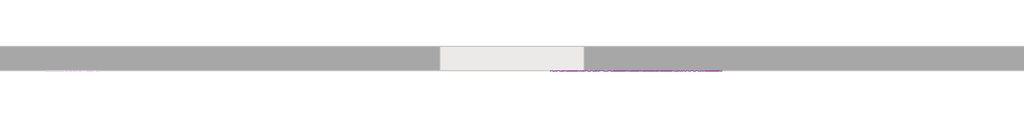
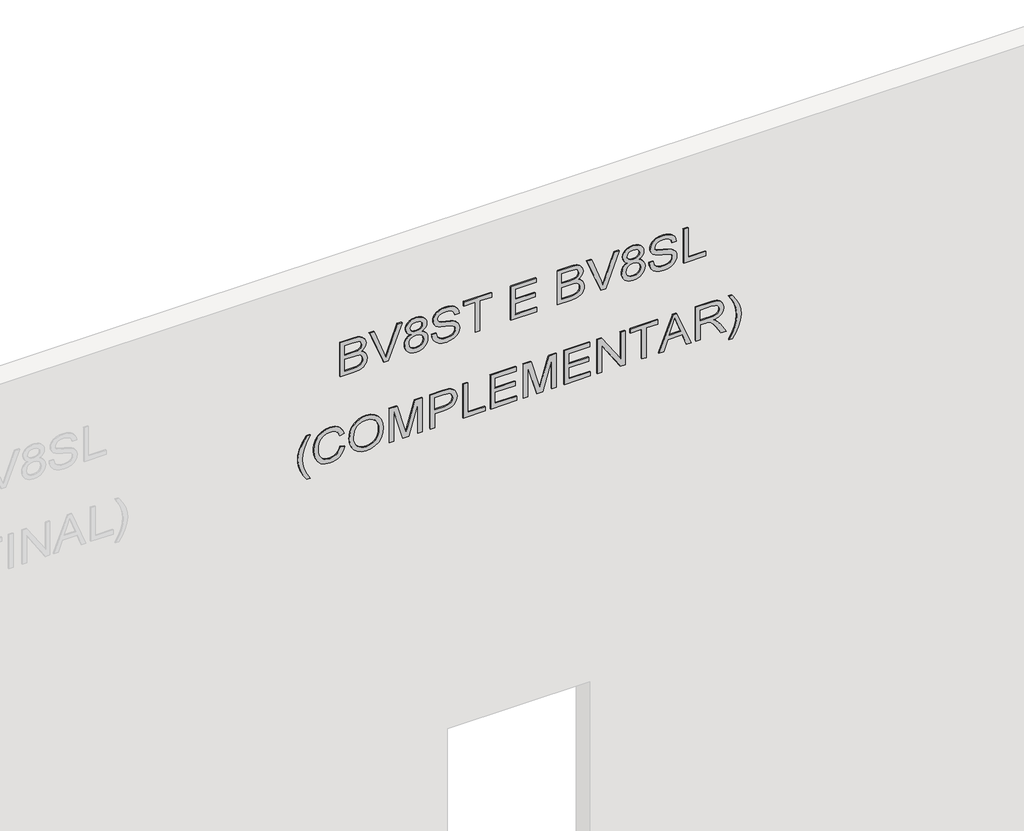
# One storey, part 5 of 5: 1 proxy.
"""IFC4 building model written with IfcOpenShell, lengths in millimetres."""

from ifc_helpers import new_model, si_unit, frame, origin, place, context, project, spatial, polyline, outline, extrude, element, save

model = new_model("IFC4")

# Units and contexts
model_context = context("Model", 3, world=origin())
ifc_project = project(units=[si_unit("LENGTHUNIT", "METRE", prefix="MILLI")], contexts=[model_context])

# Site, building, storey
site = spatial("IfcSite", under=ifc_project)
building = spatial("IfcBuilding", under=site)
storey = spatial("IfcBuildingStorey", under=building, Name="01 - Marelli - Planta Baixa - Painel Simples", Elevation=0.0)

# Proxy
placement = place(None, origin())
element("IfcBuildingElementProxy", 1, Name="300mm Arial", ObjectType="300mm Arial", at=placement, inside=storey, context=model_context, shape_type="SweptSolid", body=[
    extrude(outline(polyline([(6065.9244535, 22363.4646331), (6065.9244535, 22477.581628), (6071.1115897, 22525.884534), (6077.5311305, 22543.9199488), (6086.4154807, 22558.6628198), (6098.6843452, 22570.7017581), (6115.2574291, 22580.6253749), (6134.7459778, 22587.274842), (6155.7612368, 22589.491331), (6180.9795475, 22586.2447724), (6202.6294029, 22576.5050965), (6219.5887629, 22560.732156), (6230.7355874, 22539.3858032), (6242.4802201, 22557.2556711), (6257.407032, 22569.956797), (6274.4675596, 22577.5443632), (6292.613339, 22580.0735519), (6312.3318139, 22577.0661166), (6331.1673721, 22568.0438107), (6347.1794359, 22553.7148069), (6358.4274279, 22534.7872783), (6365.076895, 22510.0931994), (6367.293384, 22478.4645448), (6367.293384, 22363.4646331), (6065.9244535, 22363.4646331)]), holes=[polyline([(6244.862256, 22401.1357494), (6329.6222677, 22401.1357494), (6329.6222677, 22464.7057582), (6325.6859303, 22513.1190288), (6320.084927, 22525.6086225), (6311.1545915, 22534.8240665), (6299.7134615, 22540.5078433), (6286.5800742, 22542.4024356), (6273.0512139, 22540.3698876), (6262.0423452, 22534.2722435), (6253.6822268, 22524.1646857), (6248.0996175, 22510.1023964), (6244.862256, 22469.9296825), (6244.862256, 22401.1357494)]), polyline([(6103.5955698, 22401.1357494), (6207.1911397, 22401.1357494), (6207.1911397, 22474.7121485), (6205.9311438, 22501.539943), (6202.1511563, 22521.2492209), (6195.262566, 22535.1643573), (6184.6767616, 22544.6097276), (6171.1387042, 22550.0175929), (6155.3933548, 22551.8202147), (6141.8369032, 22550.2843073), (6130.0094971, 22545.6765854), (6113.2708663, 22530.0048124), (6105.0670978, 22506.3500001), (6103.5955698, 22478.3909684), (6103.5955698, 22401.1357494)])]), frame((0.0, 8778.3159498, 0.0), z_axis=(0.0, 1.0, 0.0), x_axis=(0.0, 0.0, 1.0)), (0.0, 0.0, 1.0), 10.0),
    extrude(outline(polyline([(6065.9244535, 22730.3165587), (6065.9244535, 22769.2384738), (6367.293384, 22884.0912327), (6367.293384, 22843.771366), (6150.1694304, 22763.2787855), (6101.2411251, 22747.2391305), (6150.1694304, 22730.9787463), (6367.293384, 22650.706895), (6367.293384, 22610.3870283), (6065.9244535, 22730.3165587)])), frame((0.0, 8778.3159498, 0.0), z_axis=(0.0, 1.0, 0.0), x_axis=(0.0, 0.0, 1.0)), (0.0, 0.0, 1.0), 10.0),
    extrude(outline(polyline([(6231.9128098, 22959.8749237), (6221.4281729, 22936.5512052), (6204.5423893, 22919.2607515), (6182.0280112, 22908.5553854), (6154.6575908, 22904.98693), (6135.5070337, 22906.6883843), (6118.007347, 22911.792747), (6102.1585308, 22920.3000181), (6087.960585, 22932.2101977), (6076.2596383, 22946.8978863), (6067.9018193, 22963.7376847), (6062.8871278, 22982.7295927), (6061.215564, 23003.8736103), (6062.88023, 23025.017628), (6067.8742281, 23044.009536), (6076.1975583, 23060.8493343), (6087.8502204, 23075.537023), (6101.9492979, 23087.4472026), (6117.6118739, 23095.9544737), (6134.8379483, 23101.0588364), (6153.6275212, 23102.7602906), (6179.9770691, 23099.329791), (6202.3718855, 23089.0382922), (6219.965842, 23072.1617057), (6231.9128098, 23048.975943), (6241.8180325, 23068.5012798), (6255.1997401, 23082.3428399), (6271.6348682, 23090.5925937), (6290.7003526, 23093.3425116), (6306.0962141, 23091.7974072), (6320.278065, 23087.1620941), (6333.2459053, 23079.4365722), (6344.9997351, 23068.6208415), (6354.7532065, 23055.2713236), (6361.7199718, 23039.94444), (6367.293384, 23003.3585756), (6361.8487305, 22966.9934403), (6355.0429135, 22951.8321036), (6345.5147699, 22938.6849208), (6333.9862678, 22928.0623282), (6321.1793759, 22920.474762), (6307.094094, 22915.9222223), (6291.7304222, 22914.4047091), (6272.0303413, 22917.1914152), (6255.3101047, 22925.5515336), (6241.8456236, 22939.7057933), (6231.9128098, 22959.8749237)]), holes=[polyline([(6290.6267762, 22952.0758254), (6305.525997, 22955.4695368), (6318.1443494, 22965.650671), (6326.7527881, 22981.9938287), (6329.6222677, 23003.8736103), (6326.6884088, 23025.6154363), (6317.886832, 23041.986185), (6304.781036, 23052.2500927), (6288.934519, 23055.6713953), (6273.6674162, 23052.3604573), (6260.9754874, 23042.4276434), (6252.422231, 23026.2776238), (6249.5711455, 23004.3150687), (6252.4406251, 22981.8282818), (6261.0490638, 22965.4299418), (6274.182451, 22955.4143545), (6290.6267762, 22952.0758254)]), polyline([(6155.981966, 22942.6580463), (6177.9629152, 22946.6403689), (6195.9339506, 22958.5873367), (6207.9085096, 22977.634427), (6211.9000292, 23002.9171172), (6207.8533273, 23028.8527978), (6195.7132214, 23048.5344846), (6177.3926981, 23060.9505019), (6154.8047436, 23065.0891743), (6132.5938681, 23061.0792606), (6114.6688179, 23049.0495194), (6102.8322147, 23029.809291), (6098.8866803, 23004.1679159), (6100.7628785, 22987.4292852), (6106.391473, 22971.2056892), (6115.4505671, 22957.6584347), (6127.6182641, 22948.9488285), (6155.981966, 22942.6580463)])]), frame((0.0, 8778.3159498, 0.0), z_axis=(0.0, 1.0, 0.0), x_axis=(0.0, 0.0, 1.0)), (0.0, 0.0, 1.0), 10.0),
    extrude(outline(polyline([(6169.5200234, 23135.7225174), (6139.0961824, 23140.1922837), (6111.9832793, 23151.9829016), (6089.7264186, 23170.3494102), (6073.8707046, 23194.5468484), (6064.3793492, 23224.9247042), (6061.215564, 23261.8324654), (6064.1494229, 23291.8976214), (6072.9509996, 23318.8173864), (6087.0408801, 23341.2030058), (6105.83965, 23357.6657251), (6127.6826435, 23367.791677), (6150.9051944, 23371.1669943), (6173.6219076, 23368.2331354), (6193.5059295, 23359.4315587), (6210.3733189, 23344.4495644), (6224.0401351, 23322.974453), (6232.8509088, 23297.8481127), (6242.9492696, 23256.3142354), (6253.5810593, 23216.0679452), (6263.9921197, 23194.8043658), (6275.6355849, 23185.8096511), (6290.1117414, 23182.8114128), (6307.0894955, 23187.0420557), (6321.381711, 23199.7339846), (6331.0937957, 23221.6781456), (6334.3311572, 23253.6654851), (6331.0570075, 23284.9170606), (6321.2345582, 23307.4498328), (6305.0109622, 23321.870807), (6282.5333723, 23328.7869885), (6282.5333723, 23366.4581048), (6307.4941657, 23362.2090677), (6329.6958441, 23351.5220958), (6347.9979733, 23334.6363122), (6361.2601193, 23311.7908403), (6369.316735, 23283.9789615), (6372.0022735, 23252.1939571), (6369.4362966, 23222.855368), (6361.7383659, 23196.3494702), (6349.0832252, 23174.2673535), (6331.6456187, 23158.2001073), (6311.0718181, 23148.4052492), (6289.0080954, 23145.1402965), (6269.2712264, 23147.7798498), (6251.5577083, 23155.6985098), (6236.198635, 23168.9882468), (6223.5251003, 23187.7410315), (6214.4660061, 23210.7796415), (6204.9470595, 23246.7860918), (6190.5628735, 23301.6372972), (6182.7545782, 23317.7137404), (6173.4563607, 23327.2418841), (6162.5578566, 23331.9323795), (6149.9487012, 23333.495878), (6137.0084521, 23331.4081477), (6124.6752082, 23325.1449567), (6113.9330539, 23314.6143346), (6105.7660736, 23299.7243109), (6100.6065286, 23281.3486052), (6098.8866803, 23260.3609374), (6101.1583516, 23236.5221841), (6107.9733656, 23215.1850284), (6118.4763965, 23197.7290277), (6131.8121189, 23185.5337396), (6148.615129, 23177.7162472), (6169.5200234, 23173.3936337), (6169.5200234, 23135.7225174)])), frame((0.0, 8778.3159498, 0.0), z_axis=(0.0, 1.0, 0.0), x_axis=(0.0, 0.0, 1.0)), (0.0, 0.0, 1.0), 10.0),
    extrude(outline(polyline([(6065.9244535, 23503.0159014), (6065.9244535, 23540.6870177), (6329.6222677, 23540.6870177), (6329.6222677, 23639.573698), (6367.293384, 23639.573698), (6367.293384, 23404.1292211), (6329.6222677, 23404.1292211), (6329.6222677, 23503.0159014), (6065.9244535, 23503.0159014)])), frame((0.0, 8778.3159498, 0.0), z_axis=(0.0, 1.0, 0.0), x_axis=(0.0, 0.0, 1.0)), (0.0, 0.0, 1.0), 10.0),
    extrude(outline(polyline([(6065.9244535, 23799.6759423), (6065.9244535, 24020.9937506), (6103.5955698, 24020.9937506), (6103.5955698, 23837.3470586), (6202.4822501, 23837.3470586), (6202.4822501, 24006.867082), (6240.1533665, 24006.867082), (6240.1533665, 23837.3470586), (6329.6222677, 23837.3470586), (6329.6222677, 24016.2848611), (6367.293384, 24016.2848611), (6367.293384, 23799.6759423), (6065.9244535, 23799.6759423)])), frame((0.0, 8778.3159498, 0.0), z_axis=(0.0, 1.0, 0.0), x_axis=(0.0, 0.0, 1.0)), (0.0, 0.0, 1.0), 10.0),
    extrude(outline(polyline([(6065.9244535, 24195.2226635), (6065.9244535, 24309.3396584), (6071.1115897, 24357.6425644), (6077.5311305, 24375.6779792), (6086.4154807, 24390.4208502), (6098.6843452, 24402.4597885), (6115.2574291, 24412.3834053), (6134.7459778, 24419.0328723), (6155.7612368, 24421.2493614), (6180.9795475, 24418.0028028), (6202.6294029, 24408.2631269), (6219.5887629, 24392.4901864), (6230.7355874, 24371.1438336), (6242.4802201, 24389.0137015), (6257.407032, 24401.7148274), (6274.4675596, 24409.3023936), (6292.613339, 24411.8315823), (6312.3318139, 24408.824147), (6331.1673721, 24399.801841), (6347.1794359, 24385.4728373), (6358.4274279, 24366.5453087), (6365.076895, 24341.8512298), (6367.293384, 24310.2225752), (6367.293384, 24195.2226635), (6065.9244535, 24195.2226635)]), holes=[polyline([(6244.862256, 24232.8937798), (6329.6222677, 24232.8937798), (6329.6222677, 24296.4637886), (6325.6859303, 24344.8770592), (6320.084927, 24357.3666529), (6311.1545915, 24366.5820969), (6299.7134615, 24372.2658737), (6286.5800742, 24374.160466), (6273.0512139, 24372.127918), (6262.0423452, 24366.0302739), (6253.6822268, 24355.9227161), (6248.0996175, 24341.8604268), (6244.862256, 24301.6877129), (6244.862256, 24232.8937798)]), polyline([(6103.5955698, 24232.8937798), (6207.1911397, 24232.8937798), (6207.1911397, 24306.4701789), (6205.9311438, 24333.2979734), (6202.1511563, 24353.0072513), (6195.262566, 24366.9223877), (6184.6767616, 24376.3677579), (6171.1387042, 24381.7756233), (6155.3933548, 24383.5782451), (6141.8369032, 24382.0423377), (6130.0094971, 24377.4346157), (6113.2708663, 24361.7628427), (6105.0670978, 24338.1080305), (6103.5955698, 24310.1489988), (6103.5955698, 24232.8937798)])]), frame((0.0, 8778.3159498, 0.0), z_axis=(0.0, 1.0, 0.0), x_axis=(0.0, 0.0, 1.0)), (0.0, 0.0, 1.0), 10.0),
    extrude(outline(polyline([(6065.9244535, 24562.0745891), (6065.9244535, 24600.9965042), (6367.293384, 24715.8492631), (6367.293384, 24675.5293964), (6150.1694304, 24595.0368159), (6101.2411251, 24578.9971609), (6150.1694304, 24562.7367767), (6367.293384, 24482.4649254), (6367.293384, 24442.1450587), (6065.9244535, 24562.0745891)])), frame((0.0, 8778.3159498, 0.0), z_axis=(0.0, 1.0, 0.0), x_axis=(0.0, 0.0, 1.0)), (0.0, 0.0, 1.0), 10.0),
    extrude(outline(polyline([(6231.9128098, 24791.6329541), (6221.4281729, 24768.3092356), (6204.5423893, 24751.0187818), (6182.0280112, 24740.3134158), (6154.6575908, 24736.7449604), (6135.5070337, 24738.4464147), (6118.007347, 24743.5507773), (6102.1585308, 24752.0580485), (6087.960585, 24763.9682281), (6076.2596383, 24778.6559167), (6067.9018193, 24795.4957151), (6062.8871278, 24814.4876231), (6061.215564, 24835.6316407), (6062.88023, 24856.7756584), (6067.8742281, 24875.7675664), (6076.1975583, 24892.6073647), (6087.8502204, 24907.2950534), (6101.9492979, 24919.205233), (6117.6118739, 24927.7125041), (6134.8379483, 24932.8168668), (6153.6275212, 24934.518321), (6179.9770691, 24931.0878214), (6202.3718855, 24920.7963226), (6219.965842, 24903.9197361), (6231.9128098, 24880.7339733), (6241.8180325, 24900.2593102), (6255.1997401, 24914.1008703), (6271.6348682, 24922.350624), (6290.7003526, 24925.100542), (6306.0962141, 24923.5554376), (6320.278065, 24918.9201244), (6333.2459053, 24911.1946025), (6344.9997351, 24900.3788719), (6354.7532065, 24887.029354), (6361.7199718, 24871.7024704), (6367.293384, 24835.1166059), (6361.8487305, 24798.7514707), (6355.0429135, 24783.590134), (6345.5147699, 24770.4429512), (6333.9862678, 24759.8203586), (6321.1793759, 24752.2327924), (6307.094094, 24747.6802527), (6291.7304222, 24746.1627395), (6272.0303413, 24748.9494456), (6255.3101047, 24757.309564), (6241.8456236, 24771.4638237), (6231.9128098, 24791.6329541)]), holes=[polyline([(6155.981966, 24774.4160767), (6177.9629152, 24778.3983993), (6195.9339506, 24790.3453671), (6207.9085096, 24809.3924574), (6211.9000292, 24834.6751475), (6207.8533273, 24860.6108282), (6195.7132214, 24880.2925149), (6177.3926981, 24892.7085323), (6154.8047436, 24896.8472047), (6132.5938681, 24892.837291), (6114.6688179, 24880.8075497), (6102.8322147, 24861.5673214), (6098.8866803, 24835.9259463), (6100.7628785, 24819.1873155), (6106.391473, 24802.9637196), (6115.4505671, 24789.4164651), (6127.6182641, 24780.7068588), (6155.981966, 24774.4160767)]), polyline([(6290.6267762, 24783.8338558), (6305.525997, 24787.2275672), (6318.1443494, 24797.4087014), (6326.7527881, 24813.7518591), (6329.6222677, 24835.6316407), (6326.6884088, 24857.3734666), (6317.886832, 24873.7442154), (6304.781036, 24884.0081231), (6288.934519, 24887.4294256), (6273.6674162, 24884.1184877), (6260.9754874, 24874.1856738), (6252.422231, 24858.0356542), (6249.5711455, 24836.0730991), (6252.4406251, 24813.5863122), (6261.0490638, 24797.1879722), (6274.182451, 24787.1723849), (6290.6267762, 24783.8338558)])]), frame((0.0, 8778.3159498, 0.0), z_axis=(0.0, 1.0, 0.0), x_axis=(0.0, 0.0, 1.0)), (0.0, 0.0, 1.0), 10.0),
    extrude(outline(polyline([(6169.5200234, 24967.4805478), (6139.0961824, 24971.950314), (6111.9832793, 24983.740932), (6089.7264186, 25002.1074406), (6073.8707046, 25026.3048788), (6064.3793492, 25056.6827346), (6061.215564, 25093.5904957), (6064.1494229, 25123.6556518), (6072.9509996, 25150.5754168), (6087.0408801, 25172.9610362), (6105.83965, 25189.4237555), (6127.6826435, 25199.5497074), (6150.9051944, 25202.9250247), (6173.6219076, 25199.9911658), (6193.5059295, 25191.1895891), (6210.3733189, 25176.2075948), (6224.0401351, 25154.7324833), (6232.8509088, 25129.6061431), (6242.9492696, 25088.0722658), (6253.5810593, 25047.8259755), (6263.9921197, 25026.5623962), (6275.6355849, 25017.5676814), (6290.1117414, 25014.5694432), (6307.0894955, 25018.8000861), (6321.381711, 25031.492015), (6331.0937957, 25053.436176), (6334.3311572, 25085.4235155), (6331.0570075, 25116.6750909), (6321.2345582, 25139.2078631), (6305.0109622, 25153.6288374), (6282.5333723, 25160.5450189), (6282.5333723, 25198.2161352), (6307.4941657, 25193.9670981), (6329.6958441, 25183.2801262), (6347.9979733, 25166.3943426), (6361.2601193, 25143.5488707), (6369.316735, 25115.7369919), (6372.0022735, 25083.9519875), (6369.4362966, 25054.6133984), (6361.7383659, 25028.1075006), (6349.0832252, 25006.0253838), (6331.6456187, 24989.9581377), (6311.0718181, 24980.1632796), (6289.0080954, 24976.8983269), (6269.2712264, 24979.5378802), (6251.5577083, 24987.4565401), (6236.198635, 25000.7462772), (6223.5251003, 25019.4990619), (6214.4660061, 25042.5376719), (6204.9470595, 25078.5441221), (6190.5628735, 25133.3953276), (6182.7545782, 25149.4717708), (6173.4563607, 25158.9999145), (6162.5578566, 25163.6904099), (6149.9487012, 25165.2539084), (6137.0084521, 25163.1661781), (6124.6752082, 25156.9029871), (6113.9330539, 25146.372365), (6105.7660736, 25131.4823412), (6100.6065286, 25113.1066356), (6098.8866803, 25092.1189678), (6101.1583516, 25068.2802145), (6107.9733656, 25046.9430588), (6118.4763965, 25029.4870581), (6131.8121189, 25017.2917699), (6148.615129, 25009.4742775), (6169.5200234, 25005.1516641), (6169.5200234, 24967.4805478)])), frame((0.0, 8778.3159498, 0.0), z_axis=(0.0, 1.0, 0.0), x_axis=(0.0, 0.0, 1.0)), (0.0, 0.0, 1.0), 10.0),
    extrude(outline(polyline([(6065.9244535, 25259.4316992), (6065.9244535, 25447.7872807), (6103.5955698, 25447.7872807), (6103.5955698, 25297.1028155), (6367.293384, 25297.1028155), (6367.293384, 25259.4316992), (6065.9244535, 25259.4316992)])), frame((0.0, 8778.3159498, 0.0), z_axis=(0.0, 1.0, 0.0), x_axis=(0.0, 0.0, 1.0)), (0.0, 0.0, 1.0), 10.0),
    extrude(outline(polyline([(5249.3155348, 22080.9312608), (5249.3155348, 22109.1845981), (5297.5540614, 22080.3426497), (5345.8109821, 22059.7412579), (5394.0862969, 22047.3804229), (5442.3800058, 22043.2601445), (5480.2534572, 22045.6329834), (5517.9429677, 22052.7515), (5575.7740173, 22073.9415029), (5635.4444769, 22109.1845981), (5635.4444769, 22080.9312608), (5584.934279, 22046.2399887), (5534.2033518, 22021.9229888), (5489.4137189, 22009.6725184), (5442.600735, 22005.5890282), (5389.2210575, 22011.0520759), (5337.68079, 22027.4412187), (5290.2791949, 22051.7398245), (5249.3155348, 22080.9312608)])), frame((0.0, 8778.3159498, 0.0), z_axis=(0.0, 1.0, 0.0), x_axis=(0.0, 0.0, 1.0)), (0.0, 0.0, 1.0), 10.0),
    extrude(outline(polyline([(5441.2027835, 22363.4646331), (5408.9395325, 22351.278542), (5385.7261786, 22331.4956878), (5371.7098746, 22305.2932927), (5367.0377732, 22273.8485791), (5370.4682728, 22246.8736318), (5380.7597717, 22221.8668532), (5397.9858461, 22201.0079441), (5422.2200725, 22186.4766053), (5452.3128197, 22177.95094), (5487.1144565, 22175.1090516), (5515.5333406, 22177.5094816), (5543.1060961, 22184.7107717), (5567.4966724, 22197.8349619), (5586.3690188, 22218.0040922), (5598.4539423, 22244.5835664), (5602.4822501, 22276.9387879), (5598.8494154, 22305.0081841), (5587.9509113, 22327.853656), (5569.1061561, 22345.6959328), (5541.6345681, 22358.7557436), (5550.6108888, 22396.4268599), (5588.4291579, 22379.7893967), (5603.751443, 22367.9872824), (5616.6824952, 22353.8629131), (5626.9510013, 22337.6830031), (5634.2856486, 22319.7142669), (5640.1533665, 22278.4103159), (5635.6192209, 22240.5552586), (5622.0167841, 22206.0111392), (5599.6771499, 22176.8840822), (5568.9314122, 22155.2802121), (5530.9843844, 22141.8985045), (5487.0408801, 22137.4379353), (5445.3782441, 22141.3834697), (5406.4747231, 22153.2200729), (5373.3837376, 22172.607454), (5349.1587083, 22199.2053223), (5334.3146698, 22233.9057915), (5329.3666569, 22277.6009755), (5331.0014325, 22300.0233831), (5335.9057594, 22320.6431689), (5344.0796375, 22339.460333), (5355.5230668, 22356.4748752), (5370.0796975, 22371.3511034), (5387.5931797, 22383.7533252), (5408.0635135, 22393.6815405), (5431.4906988, 22401.1357494), (5441.2027835, 22363.4646331)])), frame((0.0, 8778.3159498, 0.0), z_axis=(0.0, 1.0, 0.0), x_axis=(0.0, 0.0, 1.0)), (0.0, 0.0, 1.0), 10.0),
    extrude(outline(polyline([(5480.7868861, 22438.8068658), (5442.2420501, 22443.1110851), (5405.7757473, 22456.0237431), (5374.0827134, 22477.2873224), (5349.8576841, 22506.6443057), (5334.4894137, 22542.292071), (5329.3666569, 22582.4279967), (5334.0019701, 22620.2370687), (5347.9079095, 22655.3789963), (5370.8269578, 22685.3429848), (5402.5015976, 22707.6182396), (5440.9636602, 22721.4414056), (5484.2449769, 22726.0491276), (5526.9560765, 22721.6713318), (5564.8847102, 22708.5379446), (5596.5041677, 22687.0536361), (5620.2877387, 22657.6230765), (5635.1869595, 22622.1776462), (5640.1533665, 22582.6487259), (5637.5092146, 22552.3582421), (5629.5767591, 22524.9832231), (5616.3559999, 22500.523669), (5597.846937, 22478.9795796), (5574.6657728, 22461.4040173), (5547.4287096, 22448.8500442), (5516.1357474, 22441.3176604), (5480.7868861, 22438.8068658)]), holes=[polyline([(5480.4190041, 22476.4779821), (5510.955509, 22478.4415522), (5536.7877229, 22484.3322627), (5557.9156457, 22494.1501134), (5574.3392775, 22507.8951044), (5586.651828, 22524.3624223), (5595.446507, 22542.3472533), (5600.7233144, 22561.8495976), (5602.4822501, 22582.8694551), (5598.8310213, 22612.0333002), (5587.8773349, 22638.1621189), (5570.2833785, 22659.8211714), (5546.7113397, 22675.5757178), (5517.8877854, 22685.1774379), (5484.5392825, 22688.3780113), (5458.0011951, 22686.5087109), (5434.672878, 22680.9008097), (5414.5543314, 22671.5543078), (5397.6455552, 22658.4692051), (5384.2546506, 22642.4870316), (5374.6897187, 22624.4493176), (5368.9507596, 22604.3560628), (5367.0377732, 22582.2072675), (5368.9323655, 22560.4309526), (5374.6161423, 22540.5722227), (5384.0891037, 22522.6310776), (5397.3512496, 22506.6075175), (5413.9105379, 22493.4258457), (5433.2749265, 22484.0103659), (5455.4444152, 22478.361078), (5480.4190041, 22476.4779821)])]), frame((0.0, 8778.3159498, 0.0), z_axis=(0.0, 1.0, 0.0), x_axis=(0.0, 0.0, 1.0)), (0.0, 0.0, 1.0), 10.0),
    extrude(outline(polyline([(5334.0755465, 22777.8469125), (5334.0755465, 22815.5180288), (5597.7733606, 22815.5180288), (5334.0755465, 22891.2281434), (5334.0755465, 22942.2901644), (5597.7733606, 23018.000279), (5334.0755465, 23018.000279), (5334.0755465, 23055.6713953), (5635.4444769, 23055.6713953), (5635.4444769, 22990.8505877), (5426.7082328, 22930.2236349), (5378.6628443, 22916.7591539), (5423.0294129, 22904.3247424), (5635.4444769, 22842.6677201), (5635.4444769, 22777.8469125), (5334.0755465, 22777.8469125)])), frame((0.0, 8778.3159498, 0.0), z_axis=(0.0, 1.0, 0.0), x_axis=(0.0, 0.0, 1.0)), (0.0, 0.0, 1.0), 10.0),
    extrude(outline(polyline([(5334.0755465, 23121.5958488), (5334.0755465, 23159.2669651), (5456.5066745, 23159.2669651), (5456.5066745, 23235.8599965), (5458.1713405, 23265.0583306), (5463.1653386, 23289.3776298), (5471.4886687, 23308.8178939), (5483.1413309, 23323.3791232), (5497.1990217, 23333.9856209), (5512.7374374, 23341.5616908), (5529.7565782, 23346.1073327), (5548.2564441, 23347.6225466), (5569.7131614, 23345.3784665), (5589.3488629, 23338.646226), (5605.9955232, 23328.2259684), (5618.4851169, 23314.9178373), (5627.2131173, 23298.3907386), (5632.5749974, 23278.3135787), (5635.4444769, 23233.2848225), (5635.4444769, 23121.5958488), (5334.0755465, 23121.5958488)]), holes=[polyline([(5494.1777908, 23159.2669651), (5597.7733606, 23159.2669651), (5597.7733606, 23237.1843717), (5595.1981866, 23274.855488), (5588.8706163, 23289.0833242), (5578.1284621, 23300.2761339), (5563.8546407, 23307.5326062), (5546.9320689, 23309.9514303), (5524.6568141, 23305.8495461), (5508.0101538, 23293.5438933), (5497.6358815, 23271.4709736), (5494.1777908, 23238.0672885), (5494.1777908, 23159.2669651)])]), frame((0.0, 8778.3159498, 0.0), z_axis=(0.0, 1.0, 0.0), x_axis=(0.0, 0.0, 1.0)), (0.0, 0.0, 1.0), 10.0),
    extrude(outline(polyline([(5334.0755465, 23399.4203316), (5334.0755465, 23587.7759131), (5371.7466628, 23587.7759131), (5371.7466628, 23437.0914479), (5635.4444769, 23437.0914479), (5635.4444769, 23399.4203316), (5334.0755465, 23399.4203316)])), frame((0.0, 8778.3159498, 0.0), z_axis=(0.0, 1.0, 0.0), x_axis=(0.0, 0.0, 1.0)), (0.0, 0.0, 1.0), 10.0),
    extrude(outline(polyline([(5334.0755465, 23630.1559189), (5334.0755465, 23851.4737272), (5371.7466628, 23851.4737272), (5371.7466628, 23667.8270352), (5470.6333431, 23667.8270352), (5470.6333431, 23837.3470586), (5508.3044594, 23837.3470586), (5508.3044594, 23667.8270352), (5597.7733606, 23667.8270352), (5597.7733606, 23846.7648377), (5635.4444769, 23846.7648377), (5635.4444769, 23630.1559189), (5334.0755465, 23630.1559189)])), frame((0.0, 8778.3159498, 0.0), z_axis=(0.0, 1.0, 0.0), x_axis=(0.0, 0.0, 1.0)), (0.0, 0.0, 1.0), 10.0),
    extrude(outline(polyline([(5334.0755465, 23907.9804017), (5334.0755465, 23945.651518), (5597.7733606, 23945.651518), (5334.0755465, 24021.3616326), (5334.0755465, 24072.4236535), (5597.7733606, 24148.1337681), (5334.0755465, 24148.1337681), (5334.0755465, 24185.8048844), (5635.4444769, 24185.8048844), (5635.4444769, 24120.9840769), (5426.7082328, 24060.3571241), (5378.6628443, 24046.8926431), (5423.0294129, 24034.4582316), (5635.4444769, 23972.8012092), (5635.4444769, 23907.9804017), (5334.0755465, 23907.9804017)])), frame((0.0, 8778.3159498, 0.0), z_axis=(0.0, 1.0, 0.0), x_axis=(0.0, 0.0, 1.0)), (0.0, 0.0, 1.0), 10.0),
    extrude(outline(polyline([(5334.0755465, 24251.729338), (5334.0755465, 24473.0471463), (5371.7466628, 24473.0471463), (5371.7466628, 24289.4004543), (5470.6333431, 24289.4004543), (5470.6333431, 24458.9204777), (5508.3044594, 24458.9204777), (5508.3044594, 24289.4004543), (5597.7733606, 24289.4004543), (5597.7733606, 24468.3382567), (5635.4444769, 24468.3382567), (5635.4444769, 24251.729338), (5334.0755465, 24251.729338)])), frame((0.0, 8778.3159498, 0.0), z_axis=(0.0, 1.0, 0.0), x_axis=(0.0, 0.0, 1.0)), (0.0, 0.0, 1.0), 10.0),
    extrude(outline(polyline([(5334.0755465, 24529.5538207), (5334.0755465, 24567.224937), (5572.9045377, 24567.224937), (5334.0755465, 24724.678431), (5334.0755465, 24764.9982977), (5635.4444769, 24764.9982977), (5635.4444769, 24727.3271813), (5396.689062, 24727.3271813), (5635.4444769, 24569.8736874), (5635.4444769, 24529.5538207), (5334.0755465, 24529.5538207)])), frame((0.0, 8778.3159498, 0.0), z_axis=(0.0, 1.0, 0.0), x_axis=(0.0, 0.0, 1.0)), (0.0, 0.0, 1.0), 10.0),
    extrude(outline(polyline([(5334.0755465, 24906.2649838), (5334.0755465, 24943.9361001), (5597.7733606, 24943.9361001), (5597.7733606, 25042.8227804), (5635.4444769, 25042.8227804), (5635.4444769, 24807.3783035), (5597.7733606, 24807.3783035), (5597.7733606, 24906.2649838), (5334.0755465, 24906.2649838)])), frame((0.0, 8778.3159498, 0.0), z_axis=(0.0, 1.0, 0.0), x_axis=(0.0, 0.0, 1.0)), (0.0, 0.0, 1.0), 10.0),
    extrude(outline(polyline([(5334.0755465, 25050.1068439), (5334.0755465, 25089.9116758), (5428.2533372, 25124.3454305), (5428.2533372, 25248.4688157), (5334.0755465, 25282.9761469), (5334.0755465, 25322.7809787), (5635.4444769, 25202.4835663), (5635.4444769, 25170.4042563), (5334.0755465, 25050.1068439)]), holes=[polyline([(5465.9244535, 25138.1777936), (5546.4906105, 25167.6819296), (5597.7733606, 25186.4439113), (5540.0158874, 25207.5603379), (5465.9244535, 25234.7100291), (5465.9244535, 25138.1777936)])]), frame((0.0, 8778.3159498, 0.0), z_axis=(0.0, 1.0, 0.0), x_axis=(0.0, 0.0, 1.0)), (0.0, 0.0, 1.0), 10.0),
    extrude(outline(polyline([(5334.0755465, 25363.027269), (5334.0755465, 25400.6983853), (5465.9244535, 25400.6983853), (5465.9244535, 25446.1685999), (5464.6000784, 25468.0207904), (5457.4263794, 25485.9366436), (5437.8918455, 25505.8390595), (5396.5419092, 25534.1659732), (5334.0755465, 25573.3821939), (5334.0755465, 25617.1601513), (5415.7453494, 25566.9074707), (5454.5201117, 25536.3732651), (5470.6333431, 25514.962533), (5480.6213392, 25552.0726293), (5488.6365682, 25566.454516), (5498.6659511, 25578.0542952), (5523.2772566, 25593.3673832), (5552.9653336, 25598.4717459), (5576.831678, 25595.3907342), (5598.5459128, 25586.1476991), (5616.0570958, 25571.745119), (5627.3142848, 25553.1854723), (5633.4119289, 25527.7924176), (5635.4444769, 25492.8896133), (5635.4444769, 25363.027269), (5334.0755465, 25363.027269)]), holes=[polyline([(5503.5955698, 25400.6983853), (5597.7733606, 25400.6983853), (5597.7733606, 25494.5082941), (5594.5176049, 25524.3159327), (5584.750338, 25544.8713392), (5569.9430877, 25556.818307), (5551.567382, 25560.8006296), (5538.2592508, 25558.7128993), (5525.9995833, 25552.4497083), (5515.8644344, 25542.1674066), (5508.9298588, 25528.0223438), (5504.9291421, 25509.2327709), (5503.5955698, 25485.0169386), (5503.5955698, 25400.6983853)])]), frame((0.0, 8778.3159498, 0.0), z_axis=(0.0, 1.0, 0.0), x_axis=(0.0, 0.0, 1.0)), (0.0, 0.0, 1.0), 10.0),
    extrude(outline(polyline([(5249.3155348, 25669.105089), (5290.2791949, 25698.1585696), (5337.68079, 25722.4847665), (5389.2210575, 25738.9566828), (5442.600735, 25744.4473216), (5489.4137189, 25740.3638315), (5534.2033518, 25728.113361), (5584.934279, 25703.7963611), (5635.4444769, 25669.105089), (5635.4444769, 25640.8517518), (5575.1854061, 25676.3155761), (5546.8400984, 25688.290135), (5517.2807801, 25697.2848498), (5479.9775458, 25704.4033664), (5442.3800058, 25706.7762053), (5394.0862969, 25702.655927), (5345.8109821, 25690.2950919), (5297.5540614, 25669.6937002), (5249.3155348, 25640.8517518), (5249.3155348, 25669.105089)])), frame((0.0, 8778.3159498, 0.0), z_axis=(0.0, 1.0, 0.0), x_axis=(0.0, 0.0, 1.0)), (0.0, 0.0, 1.0), 10.0),
])

save(model, "model.ifc")
